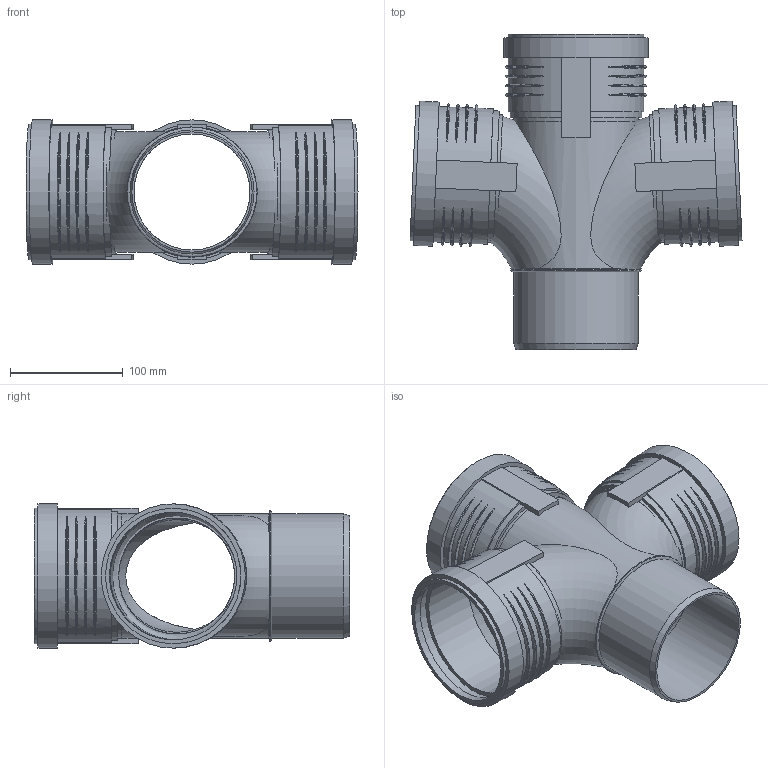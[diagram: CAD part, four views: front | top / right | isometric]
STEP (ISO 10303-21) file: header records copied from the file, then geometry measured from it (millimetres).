
FILE_DESCRIPTION(/* description */ (''),/* implementation_level */ '2;1');
FILE_NAME(/* name */ 'Z:\Geberit\Export\NewStep\390566.stp',/* time_stamp */ '2014-04-02T08:14:58+02:00',/* author */ ('ML'),/* organization */ (''),/* preprocessor_version */ 'ST-DEVELOPER v15.2',/* originating_system */ 'Autodesk Inventor 2014',/* authorisation */ '');
FILE_SCHEMA (('AUTOMOTIVE_DESIGN { 1 0 10303 214 3 1 1 }'));
Length unit declared in the file: millimetre
Products named in the file (3): 861368; 861404; 390566
Bounding box: 294.81 x 279.9 x 128.1 mm (x, y, z)
Volume: 643001.2 mm3; surface area: 375521.1 mm2
Topology: 4 solids, 4 shells, 198 faces, 479 edges, 327 vertices
Faces by surface type: torus 79, plane 69, cylinder 46, cone 4
Full cylindrical faces by diameter (mm): 103 x3, 103.2 x3, 110.2 x7, 113.3 x6, 120.3 x3, 121.1 x3, 128.1 x3
Entity records: 3708 total; most frequent: CARTESIAN_POINT 1714, DIRECTION 368, ORIENTED_EDGE 352, EDGE_CURVE 176, AXIS2_PLACEMENT_3D 166, EDGE_LOOP 132, VERTEX_POINT 128, STYLED_ITEM 90
